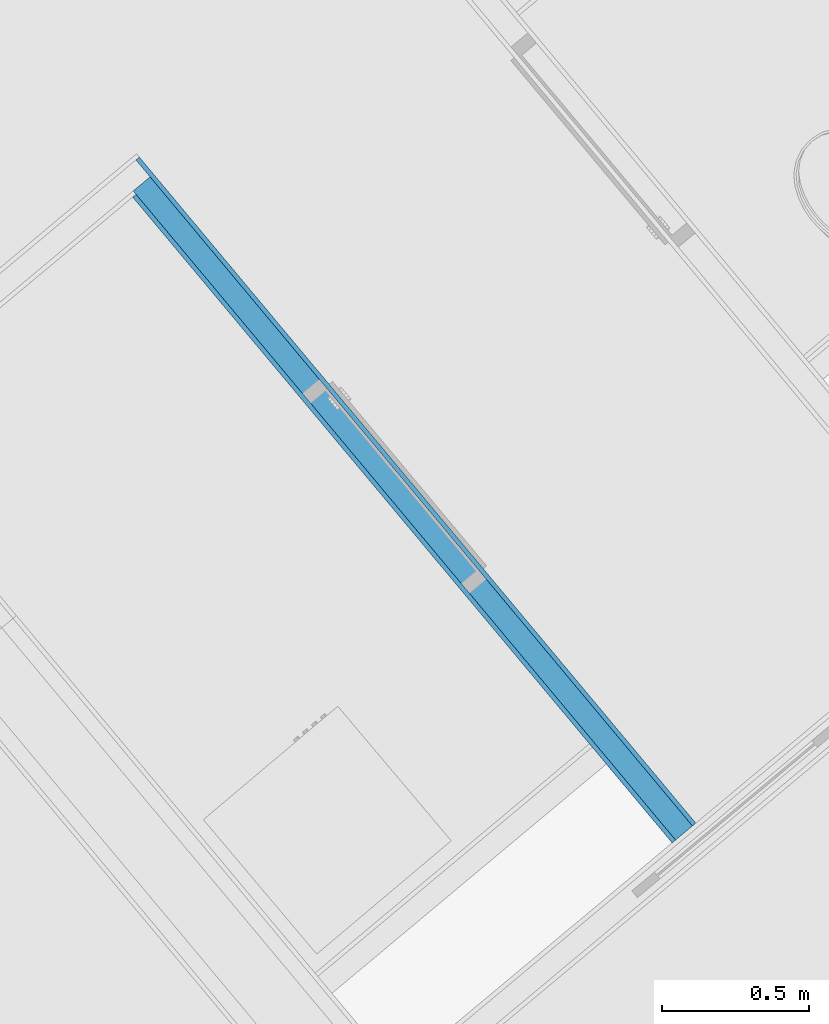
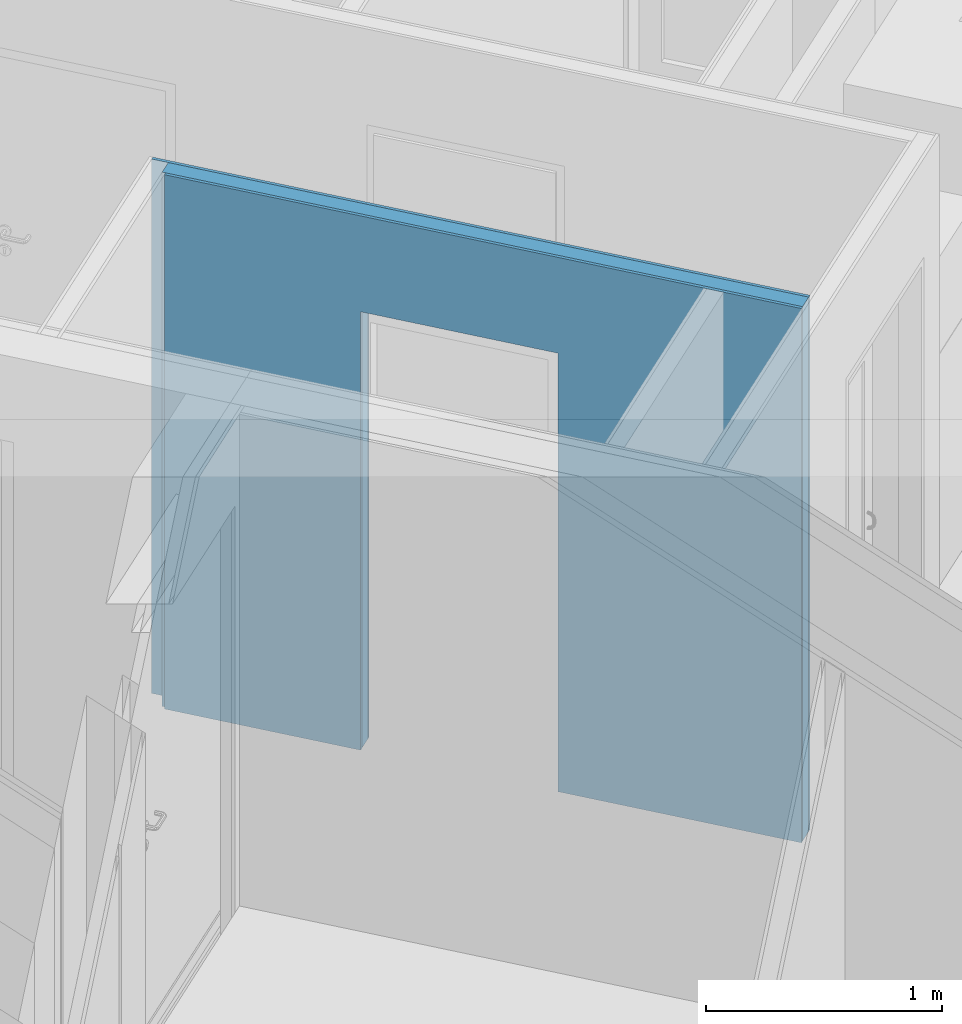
# One storey, part 7 of 58: 3 building element parts, 1 opening, 1 element without a shape of its own.
"""IFC4 building model written with IfcOpenShell, lengths in metres."""

from ifc_helpers import new_model, entity, si_unit, converted_unit, derived_unit, direction, frame, origin_with_axes, place, context, subcontext, project, spatial, polygons, material, type_object, element, aggregate, save


model = new_model("IFC4")

# Units and contexts
model_context = context("Model", 3, precision=1e-05, world=origin_with_axes(), true_north=direction((0.0, 1.0)))
body_context = subcontext(model_context, "Body", "Model", "MODEL_VIEW")
ifc_project = project(units=[si_unit("LENGTHUNIT", "METRE"), si_unit("AREAUNIT", "SQUARE_METRE"), si_unit("VOLUMEUNIT", "CUBIC_METRE"), converted_unit("PLANEANGLEUNIT", "DEGREE", entity("IfcPlaneAngleMeasure", 0.0174532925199), si_unit("PLANEANGLEUNIT", "RADIAN"), dimensions=[0, 0, 0, 0, 0, 0, 0]), converted_unit("TIMEUNIT", "Year", entity("IfcTimeMeasure", 31556926.0), si_unit("TIMEUNIT", "SECOND"), dimensions=[0, 0, 1, 0, 0, 0, 0]), si_unit("MASSUNIT", "GRAM", prefix="KILO"), si_unit("THERMODYNAMICTEMPERATUREUNIT", "DEGREE_CELSIUS"), si_unit("LUMINOUSINTENSITYUNIT", "LUMEN"), si_unit("ENERGYUNIT", "JOULE", prefix="MEGA"), derived_unit("THERMALCONDUCTANCEUNIT", [(si_unit("POWERUNIT", "WATT"), 1), (si_unit("LENGTHUNIT", "METRE"), -1), (si_unit("THERMODYNAMICTEMPERATUREUNIT", "KELVIN"), -1)]), derived_unit("SPECIFICHEATCAPACITYUNIT", [(si_unit("ENERGYUNIT", "JOULE"), 1), (si_unit("MASSUNIT", "GRAM", prefix="KILO"), -1), (si_unit("THERMODYNAMICTEMPERATUREUNIT", "KELVIN"), -1)]), derived_unit("MASSDENSITYUNIT", [(si_unit("MASSUNIT", "GRAM", prefix="KILO"), 1), (si_unit("VOLUMEUNIT", "CUBIC_METRE"), -1)])], contexts=[model_context])

# Site, building, storey
site_placement = place(None, frame((-0.00153261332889, -0.00661245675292, 0.0), z_axis=(0.0, 0.0, 1.0), x_axis=(1.0, 0.0, 0.0)))
site = spatial("IfcSite", under=ifc_project, at=site_placement, Name="Site", CompositionType="ELEMENT")
building_placement = place(site_placement, origin_with_axes())
building = spatial("IfcBuilding", under=site, at=building_placement, Name="Building", CompositionType="ELEMENT")
storey_placement = place(building_placement, frame((0.0, 0.0, 5.7), z_axis=(0.0, 0.0, 1.0), x_axis=(1.0, 0.0, 0.0)))
storey = spatial("IfcBuildingStorey", under=building, at=storey_placement, Name="DG1", CompositionType="ELEMENT", Elevation=5.7)

# Wall, opening, building element parts
wall_type = type_object("IfcWallType", Name="IW LB 01 Leichtbautrennwand einfach 10,5 cm 105", PredefinedType="NOTDEFINED")
wall_placement = place(storey_placement, frame((3.83651471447, 23.8286993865, 0.0), z_axis=(0.0, 0.0, 1.0), x_axis=(0.641209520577, -0.767365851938, 0.0)))
wall = element("IfcWall", 1, at=wall_placement, inside=storey, type_object=wall_type, Name="Wand-012", PredefinedType="NOTDEFINED")
opening_placement = place(wall_placement, frame((1.32968654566, 0.0, 0.22), z_axis=(0.0, 0.0, 1.0), x_axis=(1.0, 0.0, 0.0)))
element("IfcOpeningElement", 2, at=opening_placement, cuts=wall, Name="Tür-015", context=body_context, identifier="Reference", shape_type="Tessellation", body=[
    polygons([(-0.445, -1.46532995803, 2.045), (-0.445, -1.46532995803, -0.22), (0.445, -1.46532995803, -0.22), (0.445, -1.46532995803, 2.045), (-0.445, 1.57032995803, 2.045), (-0.445, 1.57032995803, -0.22), (0.445, 1.57032995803, -0.22), (0.445, 1.57032995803, 2.045)], [[[1, 2, 3, 4]], [[5, 6, 2, 1]], [[6, 7, 3, 2]], [[7, 8, 4, 3]], [[8, 5, 1, 4]], [[7, 6, 5, 8]]], closed=True),
])
ifc_material_1 = material(Name="Gipskarton")
building_element_part_1_placement = place(wall_placement, origin_with_axes())
building_element_part_1 = element("IfcBuildingElementPart", 3, at=building_element_part_1_placement, material=ifc_material_1, Name="Gipskarton", PredefinedType="NOTDEFINED", context=body_context, shape_type="Tessellation", body=[
    polygons([(0.884686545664, 0.105, 2.265), (0.884686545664, 0.105, 0.22), (0.884686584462, 0.105, 0.0), (-0.08999340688, 0.105, 0.0), (-0.08999340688, 0.105, 2.76), (2.87109055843, 0.105, 2.76), (2.87109055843, 0.105, 0.0), (1.77468654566, 0.105, 0.0), (1.77468654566, 0.105, 0.22), (1.77468654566, 0.105, 2.265), (0.884686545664, 0.09, 2.265), (0.884686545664, 0.09, 0.22), (0.884686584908, 0.09, 0.0), (-0.0899943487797, 0.09, 0.0), (-0.0899943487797, 0.09, 2.76), (2.87108113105, 0.09, 2.76), (2.87108113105, 0.09, 0.0), (1.77468654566, 0.09, 0.0), (1.77468654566, 0.09, 0.22), (1.77468654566, 0.09, 2.265)], [[[1, 2, 3, 4, 5, 6, 7, 8, 9, 10]], [[2, 1, 11, 12]], [[2, 12, 13, 3]], [[13, 14, 4, 3]], [[4, 14, 15, 5]], [[6, 5, 15, 16]], [[7, 6, 16, 17]], [[8, 7, 17, 18]], [[19, 9, 8, 18]], [[10, 9, 19, 20]], [[1, 10, 20, 11]], [[20, 19, 18, 17, 16, 15, 14, 13, 12, 11]]], closed=True),
])
ifc_material_2 = material(Name="Mineralwolle weich")
building_element_part_2_placement = place(wall_placement, origin_with_axes())
building_element_part_2 = element("IfcBuildingElementPart", 4, at=building_element_part_2_placement, material=ifc_material_2, Name="Mineralwolle weich", PredefinedType="NOTDEFINED", context=body_context, shape_type="Tessellation", body=[
    polygons([(0.884686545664, 0.09, 2.265), (0.884686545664, 0.09, 0.22), (0.884686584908, 0.09, 0.0), (-0.0149943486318, 0.09, 0.0), (-0.0149943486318, 0.09, 2.76), (2.87108113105, 0.09, 2.76), (2.87108113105, 0.09, 0.0), (1.77468654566, 0.09, 0.0), (1.77468654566, 0.09, 0.22), (1.77468654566, 0.09, 2.265), (0.884686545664, 0.015, 2.265), (0.884686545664, 0.015, 0.22), (0.88468658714, 0.015, 0.0), (-0.0149990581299, 0.015, 0.0), (-0.0149990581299, 0.015, 2.76), (2.87103399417, 0.015, 2.76), (2.87103399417, 0.015, 0.0), (1.77468654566, 0.015, 0.0), (1.77468654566, 0.015, 0.22), (1.77468654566, 0.015, 2.265)], [[[1, 2, 3, 4, 5, 6, 7, 8, 9, 10]], [[2, 1, 11, 12]], [[2, 12, 13, 3]], [[13, 14, 4, 3]], [[4, 14, 15, 5]], [[6, 5, 15, 16]], [[7, 6, 16, 17]], [[8, 7, 17, 18]], [[19, 9, 8, 18]], [[10, 9, 19, 20]], [[1, 10, 20, 11]], [[20, 19, 18, 17, 16, 15, 14, 13, 12, 11]]], closed=True),
])
building_element_part_3_placement = place(wall_placement, origin_with_axes())
building_element_part_3 = element("IfcBuildingElementPart", 5, at=building_element_part_3_placement, material=ifc_material_1, Name="Gipskarton", PredefinedType="NOTDEFINED", context=body_context, shape_type="Tessellation", body=[
    polygons([(0.884686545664, 0.015, 2.265), (0.884686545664, 0.015, 0.22), (0.88468658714, 0.015, 0.0), (9.41899628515e-07, 0.015, 0.0), (9.41899628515e-07, 0.015, 2.76), (2.87103399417, 0.015, 2.76), (2.87103399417, 0.015, 0.0), (1.77468654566, 0.015, 0.0), (1.77468654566, 0.015, 0.22), (1.77468654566, 0.015, 2.265), (0.884686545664, -9.05944830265e-09, 2.265), (0.884686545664, -2.05159267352e-09, 0.22), (0.884686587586, -2.05159622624e-09, 0.0), (0.0, 0.0, 0.0), (0.0, 0.0, 2.76), (2.8710245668, 0.0, 2.76), (2.8710245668, 0.0, 0.0), (1.77468654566, -9.05944830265e-09, 0.0), (1.77468654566, -9.05944830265e-09, 0.22), (1.77468654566, -9.05944830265e-09, 2.265)], [[[1, 2, 3, 4, 5, 6, 7, 8, 9, 10]], [[2, 1, 11, 12]], [[2, 12, 13, 3]], [[13, 14, 4, 3]], [[4, 14, 15, 5]], [[6, 5, 15, 16]], [[7, 6, 16, 17]], [[8, 7, 17, 18]], [[19, 9, 8, 18]], [[10, 9, 19, 20]], [[1, 10, 20, 11]], [[20, 19, 18, 17, 16, 15, 14, 13, 12, 11]]], closed=True),
])
aggregate(wall, [building_element_part_1, building_element_part_2, building_element_part_3])

save(model, "model.ifc")
